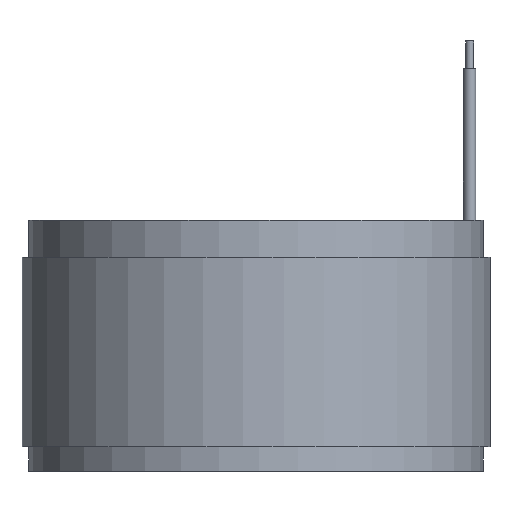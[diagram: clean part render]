
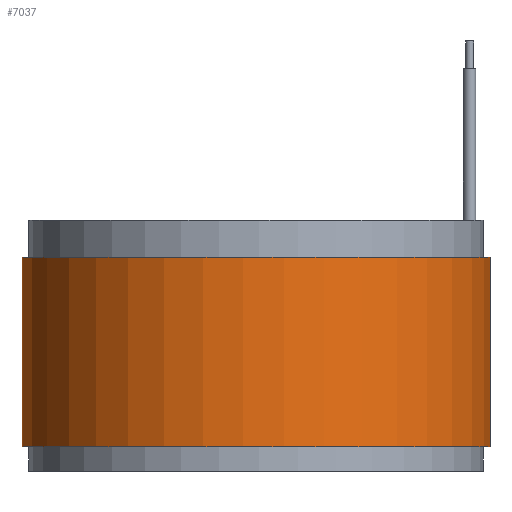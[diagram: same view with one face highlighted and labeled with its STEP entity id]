
A CAD part, front view. The second image highlights one B-rep face of the part: STEP entity #7037.
In plain terms, the highlighted cylindrical face has radius 34 mm (diameter 68 mm), a full revolution.
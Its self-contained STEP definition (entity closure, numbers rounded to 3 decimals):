
#293 = DIRECTION ( 'NONE',  ( 0.73, -0.683, 0. ) ) ;
#394 = AXIS2_PLACEMENT_3D ( 'NONE', #26979, #17613, #2645 ) ;
#596 = CYLINDRICAL_SURFACE ( 'NONE', #394, 34. ) ;
#2258 = AXIS2_PLACEMENT_3D ( 'NONE', #4113, #8672, #18350 ) ;
#2645 = DIRECTION ( 'NONE',  ( -0.73, 0.683, 0. ) ) ;
#3364 = AXIS2_PLACEMENT_3D ( 'NONE', #9239, #11573, #293 ) ;
#4113 = CARTESIAN_POINT ( 'NONE',  ( 0., 0., 27.5 ) ) ;
#6934 = EDGE_CURVE ( 'NONE', #25423, #25423, #8398, .T. ) ;
#7037 = ADVANCED_FACE ( 'NONE', ( #25339, #30494 ), #596, .T. ) ;
#8398 = CIRCLE ( 'NONE', #3364, 34. ) ;
#8672 = DIRECTION ( 'NONE',  ( 0., 0., 1. ) ) ;
#9195 = CARTESIAN_POINT ( 'NONE',  ( 24.834, -23.223, 27.5 ) ) ;
#9239 = CARTESIAN_POINT ( 'NONE',  ( 0., 0., 0. ) ) ;
#11573 = DIRECTION ( 'NONE',  ( 0., 0., 1. ) ) ;
#13206 = CIRCLE ( 'NONE', #2258, 34. ) ;
#15430 = CARTESIAN_POINT ( 'NONE',  ( 24.834, -23.223, 0. ) ) ;
#17613 = DIRECTION ( 'NONE',  ( 0., 0., -1. ) ) ;
#18341 = EDGE_LOOP ( 'NONE', ( #25037 ) ) ;
#18350 = DIRECTION ( 'NONE',  ( 0.73, -0.683, 0. ) ) ;
#19798 = ORIENTED_EDGE ( 'NONE', *, *, #26858, .F. ) ;
#24345 = EDGE_LOOP ( 'NONE', ( #19798 ) ) ;
#25037 = ORIENTED_EDGE ( 'NONE', *, *, #6934, .T. ) ;
#25339 = FACE_OUTER_BOUND ( 'NONE', #24345, .T. ) ;
#25423 = VERTEX_POINT ( 'NONE', #15430 ) ;
#25569 = VERTEX_POINT ( 'NONE', #9195 ) ;
#26858 = EDGE_CURVE ( 'NONE', #25569, #25569, #13206, .T. ) ;
#26979 = CARTESIAN_POINT ( 'NONE',  ( 0., 0., 27.5 ) ) ;
#30494 = FACE_OUTER_BOUND ( 'NONE', #18341, .T. ) ;
